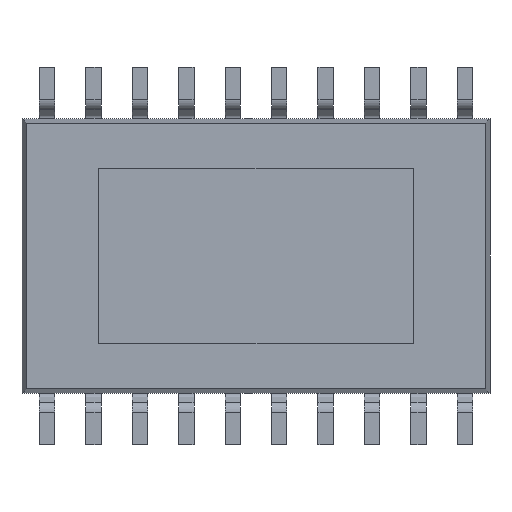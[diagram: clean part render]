
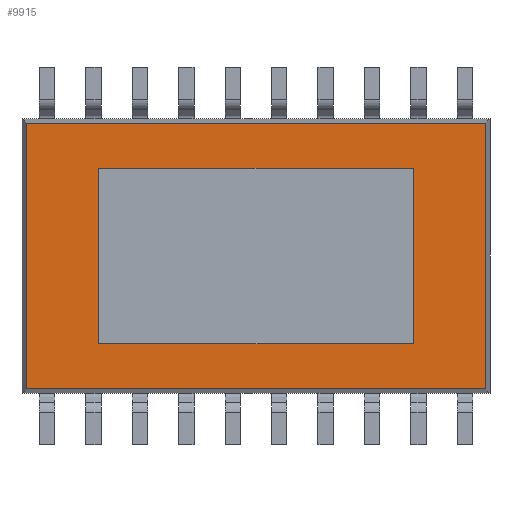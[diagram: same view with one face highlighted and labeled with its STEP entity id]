
A CAD part, front view. The second image highlights one B-rep face of the part: STEP entity #9915.
In plain terms, the highlighted planar face has unit normal (0, -1, 0).
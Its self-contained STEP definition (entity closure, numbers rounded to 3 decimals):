
#9842 = CARTESIAN_POINT ( 'NONE',  ( 4.305, 0.1, -2.4 ) ) ;
#9843 = VERTEX_POINT ( 'NONE', #9842 ) ;
#9844 = CARTESIAN_POINT ( 'NONE',  ( 4.305, 0.1, 2.4 ) ) ;
#9845 = VERTEX_POINT ( 'NONE', #9844 ) ;
#9846 = CARTESIAN_POINT ( 'NONE',  ( 4.305, 0.1, -2.4 ) ) ;
#9847 = DIRECTION ( 'NONE',  ( 0., 0., 1. ) ) ;
#9848 = VECTOR ( 'NONE', #9847, 1000. ) ;
#9849 = LINE ( 'NONE', #9846, #9848 ) ;
#9850 = EDGE_CURVE ( 'NONE', #9843, #9845, #9849, .T. ) ;
#9851 = ORIENTED_EDGE ( 'NONE', *, *, #9850, .F. ) ;
#9852 = CARTESIAN_POINT ( 'NONE',  ( -4.305, 0.1, -2.4 ) ) ;
#9853 = VERTEX_POINT ( 'NONE', #9852 ) ;
#9854 = CARTESIAN_POINT ( 'NONE',  ( -4.305, 0.1, -2.4 ) ) ;
#9855 = DIRECTION ( 'NONE',  ( 1., 0., 0. ) ) ;
#9856 = VECTOR ( 'NONE', #9855, 1000. ) ;
#9857 = LINE ( 'NONE', #9854, #9856 ) ;
#9858 = EDGE_CURVE ( 'NONE', #9853, #9843, #9857, .T. ) ;
#9859 = ORIENTED_EDGE ( 'NONE', *, *, #9858, .F. ) ;
#9860 = CARTESIAN_POINT ( 'NONE',  ( -4.305, 0.1, 2.4 ) ) ;
#9861 = VERTEX_POINT ( 'NONE', #9860 ) ;
#9862 = CARTESIAN_POINT ( 'NONE',  ( -4.305, 0.1, -2.4 ) ) ;
#9863 = DIRECTION ( 'NONE',  ( 0., 0., -1. ) ) ;
#9864 = VECTOR ( 'NONE', #9863, 1000. ) ;
#9865 = LINE ( 'NONE', #9862, #9864 ) ;
#9866 = EDGE_CURVE ( 'NONE', #9861, #9853, #9865, .T. ) ;
#9867 = ORIENTED_EDGE ( 'NONE', *, *, #9866, .F. ) ;
#9868 = CARTESIAN_POINT ( 'NONE',  ( -4.305, 0.1, 2.4 ) ) ;
#9869 = DIRECTION ( 'NONE',  ( -1., 0., 0. ) ) ;
#9870 = VECTOR ( 'NONE', #9869, 1000. ) ;
#9871 = LINE ( 'NONE', #9868, #9870 ) ;
#9872 = EDGE_CURVE ( 'NONE', #9845, #9861, #9871, .T. ) ;
#9873 = ORIENTED_EDGE ( 'NONE', *, *, #9872, .F. ) ;
#9874 = EDGE_LOOP ( 'NONE', ( #9851, #9859, #9867, #9873 ) ) ;
#9875 = FACE_BOUND ( 'NONE', #9874, .T. ) ;
#9876 = CARTESIAN_POINT ( 'NONE',  ( 6.285, 0.1, -3.635 ) ) ;
#9877 = VERTEX_POINT ( 'NONE', #9876 ) ;
#9878 = CARTESIAN_POINT ( 'NONE',  ( 6.285, 0.1, 3.635 ) ) ;
#9879 = VERTEX_POINT ( 'NONE', #9878 ) ;
#9880 = CARTESIAN_POINT ( 'NONE',  ( 6.285, 0.1, 0. ) ) ;
#9881 = DIRECTION ( 'NONE',  ( 0., 0., 1. ) ) ;
#9882 = VECTOR ( 'NONE', #9881, 1000. ) ;
#9883 = LINE ( 'NONE', #9880, #9882 ) ;
#9884 = EDGE_CURVE ( 'NONE', #9877, #9879, #9883, .T. ) ;
#9885 = ORIENTED_EDGE ( 'NONE', *, *, #9884, .T. ) ;
#9886 = CARTESIAN_POINT ( 'NONE',  ( -6.285, 0.1, 3.635 ) ) ;
#9887 = VERTEX_POINT ( 'NONE', #9886 ) ;
#9888 = CARTESIAN_POINT ( 'NONE',  ( 0., 0.1, 3.635 ) ) ;
#9889 = DIRECTION ( 'NONE',  ( -1., 0., 0. ) ) ;
#9890 = VECTOR ( 'NONE', #9889, 1000. ) ;
#9891 = LINE ( 'NONE', #9888, #9890 ) ;
#9892 = EDGE_CURVE ( 'NONE', #9879, #9887, #9891, .T. ) ;
#9893 = ORIENTED_EDGE ( 'NONE', *, *, #9892, .T. ) ;
#9894 = CARTESIAN_POINT ( 'NONE',  ( -6.285, 0.1, -3.635 ) ) ;
#9895 = VERTEX_POINT ( 'NONE', #9894 ) ;
#9896 = CARTESIAN_POINT ( 'NONE',  ( -6.285, 0.1, 0. ) ) ;
#9897 = DIRECTION ( 'NONE',  ( 0., 0., -1. ) ) ;
#9898 = VECTOR ( 'NONE', #9897, 1000. ) ;
#9899 = LINE ( 'NONE', #9896, #9898 ) ;
#9900 = EDGE_CURVE ( 'NONE', #9887, #9895, #9899, .T. ) ;
#9901 = ORIENTED_EDGE ( 'NONE', *, *, #9900, .T. ) ;
#9902 = CARTESIAN_POINT ( 'NONE',  ( 0., 0.1, -3.635 ) ) ;
#9903 = DIRECTION ( 'NONE',  ( 1., 0., 0. ) ) ;
#9904 = VECTOR ( 'NONE', #9903, 1000. ) ;
#9905 = LINE ( 'NONE', #9902, #9904 ) ;
#9906 = EDGE_CURVE ( 'NONE', #9895, #9877, #9905, .T. ) ;
#9907 = ORIENTED_EDGE ( 'NONE', *, *, #9906, .T. ) ;
#9908 = EDGE_LOOP ( 'NONE', ( #9885, #9893, #9901, #9907 ) ) ;
#9909 = FACE_OUTER_BOUND ( 'NONE', #9908, .T. ) ;
#9910 = CARTESIAN_POINT ( 'NONE',  ( 0., 0.1, 0. ) ) ;
#9911 = DIRECTION ( 'NONE',  ( 0., 1., 0. ) ) ;
#9912 = DIRECTION ( 'NONE',  ( 0., 0., 1. ) ) ;
#9913 = AXIS2_PLACEMENT_3D ( 'NONE', #9910, #9911, #9912 ) ;
#9914 = PLANE ( 'NONE', #9913 ) ;
#9915 = ADVANCED_FACE ( 'NONE', ( #9875, #9909 ), #9914, .F. ) ;
